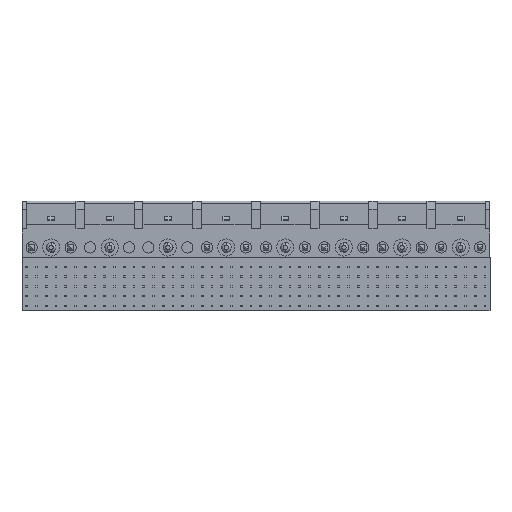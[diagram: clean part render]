
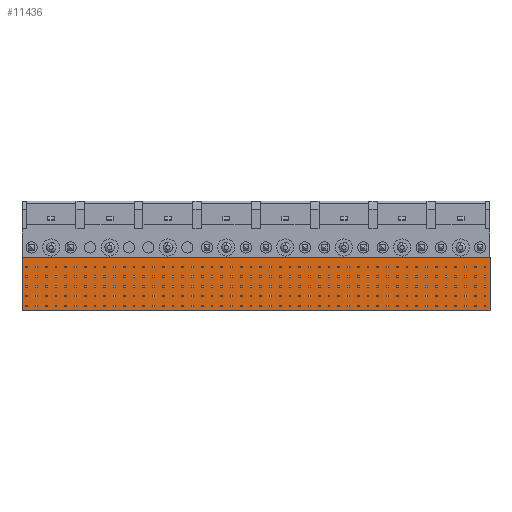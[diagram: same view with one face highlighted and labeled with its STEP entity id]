
A CAD part, front view. The second image highlights one B-rep face of the part: STEP entity #11436.
In plain terms, the highlighted planar face has unit normal (0, -1, 0) as drawn and (0, 1, 0) by its records, which use the part's own axes.
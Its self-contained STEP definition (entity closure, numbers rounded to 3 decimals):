
#11436 = ADVANCED_FACE ( 'NONE', ( #44558 ), #46279, .T. ) ;
#14826 = ORIENTED_EDGE ( 'NONE', *, *, #17409, .T. ) ;
#14892 = ORIENTED_EDGE ( 'NONE', *, *, #17406, .T. ) ;
#15066 = ORIENTED_EDGE ( 'NONE', *, *, #17413, .F. ) ;
#15214 = ORIENTED_EDGE ( 'NONE', *, *, #17395, .T. ) ;
#15377 = VERTEX_POINT ( 'NONE', #51991 ) ;
#15517 = VERTEX_POINT ( 'NONE', #52118 ) ;
#15562 = VERTEX_POINT ( 'NONE', #52158 ) ;
#16059 = VERTEX_POINT ( 'NONE', #52604 ) ;
#17395 = EDGE_CURVE ( 'NONE', #15377, #16059, #53336, .T. ) ;
#17406 = EDGE_CURVE ( 'NONE', #16059, #15517, #53346, .T. ) ;
#17409 = EDGE_CURVE ( 'NONE', #15517, #15562, #53378, .T. ) ;
#17413 = EDGE_CURVE ( 'NONE', #15377, #15562, #53390, .T. ) ;
#31131 = EDGE_LOOP ( 'NONE', ( #14826, #15066, #15214, #14892 ) ) ;
#44558 = FACE_OUTER_BOUND ( 'NONE', #31131, .T. ) ;
#45114 = AXIS2_PLACEMENT_3D ( 'NONE', #46280, #46281, #46282 ) ;
#46279 = PLANE ( 'NONE',  #45114 ) ;
#46280 = CARTESIAN_POINT ( 'NONE',  ( 10.9, 0., -24.05 ) ) ;
#46281 = DIRECTION ( 'NONE',  ( 0., 1., 0. ) ) ;
#46282 = DIRECTION ( 'NONE',  ( -1., 0., 0. ) ) ;
#47988 = VECTOR ( 'NONE', #53339, 1000. ) ;
#47989 = VECTOR ( 'NONE', #53371, 1000. ) ;
#48003 = VECTOR ( 'NONE', #53380, 1000. ) ;
#48007 = VECTOR ( 'NONE', #53392, 1000. ) ;
#51991 = CARTESIAN_POINT ( 'NONE',  ( -0.05, 0., -72. ) ) ;
#52118 = CARTESIAN_POINT ( 'NONE',  ( 10.9, 0., 23.9 ) ) ;
#52158 = CARTESIAN_POINT ( 'NONE',  ( 10.9, 0., -72. ) ) ;
#52604 = CARTESIAN_POINT ( 'NONE',  ( -0.05, 0., 23.9 ) ) ;
#53336 = LINE ( 'NONE', #53338, #47988 ) ;
#53338 = CARTESIAN_POINT ( 'NONE',  ( -0.05, 0., -24.05 ) ) ;
#53339 = DIRECTION ( 'NONE',  ( 0., 0., 1. ) ) ;
#53346 = LINE ( 'NONE', #53370, #47989 ) ;
#53370 = CARTESIAN_POINT ( 'NONE',  ( 10.9, 0., 23.9 ) ) ;
#53371 = DIRECTION ( 'NONE',  ( 1., 0., 0. ) ) ;
#53378 = LINE ( 'NONE', #53379, #48003 ) ;
#53379 = CARTESIAN_POINT ( 'NONE',  ( 10.9, 0., -24.05 ) ) ;
#53380 = DIRECTION ( 'NONE',  ( 0., 0., -1. ) ) ;
#53390 = LINE ( 'NONE', #53391, #48007 ) ;
#53391 = CARTESIAN_POINT ( 'NONE',  ( 10.9, 0., -72. ) ) ;
#53392 = DIRECTION ( 'NONE',  ( 1., 0., 0. ) ) ;
